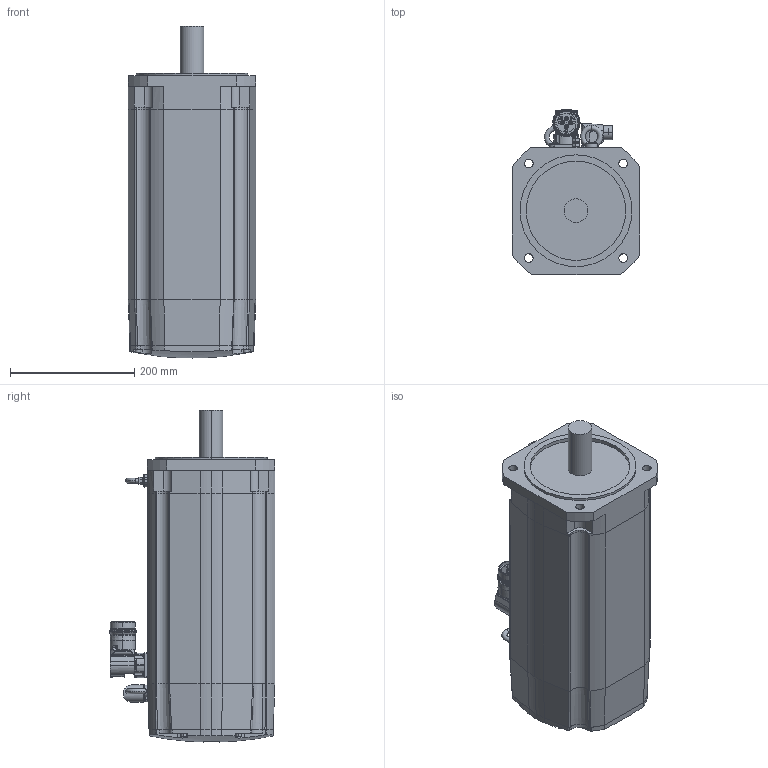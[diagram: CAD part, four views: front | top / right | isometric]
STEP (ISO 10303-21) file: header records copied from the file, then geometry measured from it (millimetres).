
FILE_DESCRIPTION (( 'STEP AP214' ), '1' );
FILE_NAME ('SH32052x0xF2100.STEP', '2013-11-29T13:13:59', ( 'Windows User' ), ( 'Schneider-Electric' ), 'SwSTEP 2.0', 'SolidWorks 2010', '' );
FILE_SCHEMA (( 'AUTOMOTIVE_DESIGN' ));
Length unit declared in the file: millimetre
Products named in the file (9): 1-100011024_K-FLANSCH SH205X_000_Flansch mit Welle ohne Passfedernut; 1-100011023_K-GEHÄUSE SH3-205X_000_Gehäuse stack 2 mit Bremse; 1-100011025_K-LAGERSCHILD SH205X_000; 1-100011027_K-DECKEL SH205_000; 1-100009587_K-ERDUNGSBOLZEN M6_VM1; Ringschraube DIN 580 M 8     0000019855011; K-ENCODER-CONINVERS-ABGEW_ENCODER-CONINVERS-ABGEWINKELT_000_Single- MultiTurn; 1-100010211_POWER M40 ABGEWINKELT VEREINFACHT_000_ohne Bremse; SH32052x0xF2100
Assembly tree (9 placements, depth 2):
  SH32052x0xF2100
    1-100010211_POWER M40 ABGEWINKELT VEREINFACHT_000_ohne Bremse
    1-100011024_K-FLANSCH SH205X_000_Flansch mit Welle ohne Passfedernut
    1-100009587_K-ERDUNGSBOLZEN M6_VM1
    1-100011025_K-LAGERSCHILD SH205X_000
    Ringschraube DIN 580 M 8     0000019855011  x2
    1-100011027_K-DECKEL SH205_000
    1-100011023_K-GEHÄUSE SH3-205X_000_Gehäuse stack 2 mit Bremse
    K-ENCODER-CONINVERS-ABGEW_ENCODER-CONINVERS-ABGEWINKELT_000_Single- MultiTurn
Bounding box: 205 x 266.5 x 534.33 mm (x, y, z)
Volume: 16128302.4 mm3; surface area: 668080.6 mm2
Topology: 9 solids, 9 shells, 776 faces, 1955 edges, 1253 vertices
Faces by surface type: cylinder 321, plane 304, bspline 74, cone 45, torus 28, sphere 4
Entity records: 30253 total; most frequent: CARTESIAN_POINT 8018, DIRECTION 3828, ORIENTED_EDGE 3746, EDGE_CURVE 1873, AXIS2_PLACEMENT_3D 1471, VERTEX_POINT 1214, VECTOR 886, LINE 886
